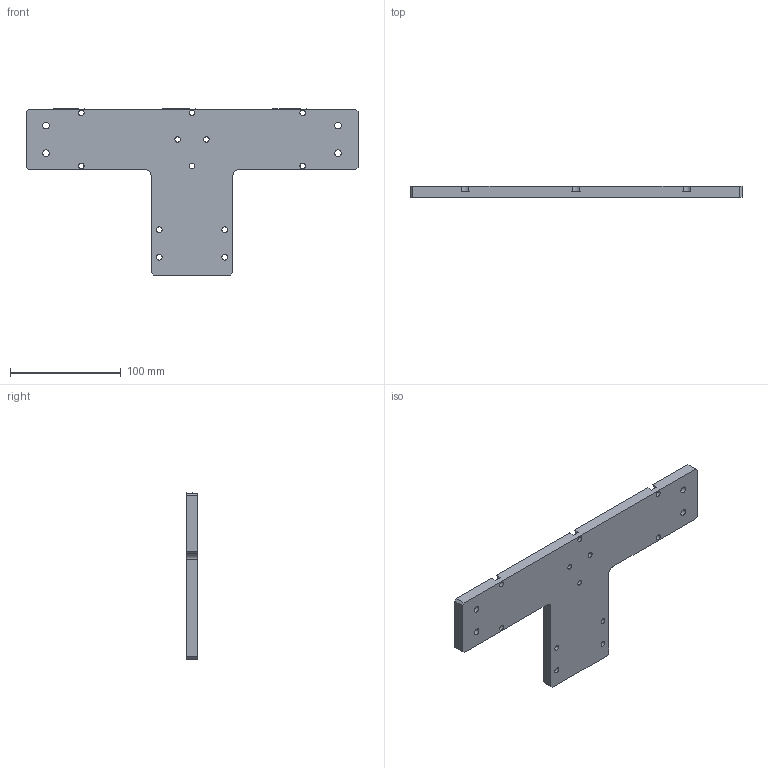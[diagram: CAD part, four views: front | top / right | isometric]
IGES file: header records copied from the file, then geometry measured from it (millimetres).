
Start section:  PTC IGES file: n46-n60l-ft.igs
Global section: file name: n46-n60l-ft.igs; native system: Pro/ENGINEER by Parametric Technology Corporation; preprocessor: 2008230; author: Owner; organization: Unknown; date: 20121212.113136; units: millimetre
Bounding box: 300 x 10 x 150 mm (x, y, z)
Surface area: 58491.3 mm2 (no closed solid volume)
Topology: 0 solids, 0 shells, 81 faces, 432 edges, 432 vertices
Faces by surface type: revolution 53, bspline 28
